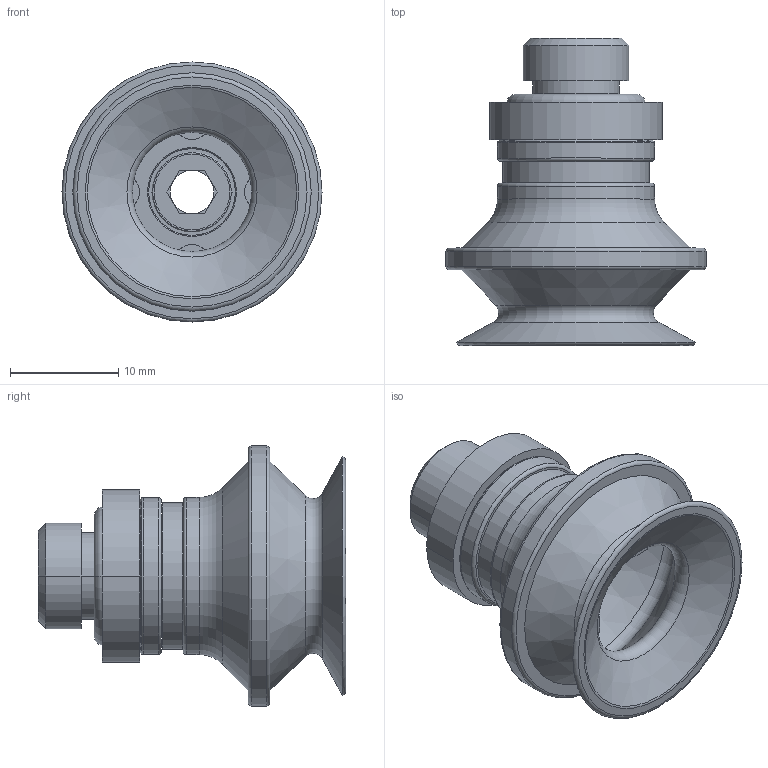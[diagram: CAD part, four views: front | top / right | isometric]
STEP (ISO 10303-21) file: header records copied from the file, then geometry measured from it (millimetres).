
FILE_DESCRIPTION (( 'STEP AP214' ), '1' );
FILE_NAME ('PSB20-G18M.STEP', '2025-09-25T14:25:20', ( '' ), ( '' ), 'SwSTEP 2.0', 'SolidWorks 2025', '' );
FILE_SCHEMA (( 'AUTOMOTIVE_DESIGN' ));
Length unit declared in the file: inch
Products named in the file (3): PSB20-G18M; 401.003; PSB20
Assembly tree (2 placements, depth 2):
  PSB20-G18M
    PSB20
    401.003
Bounding box: 24 x 28.36 x 24 mm (x, y, z)
Volume: 3076.8 mm3; surface area: 4609 mm2
Topology: 4 solids, 4 shells, 120 faces, 255 edges, 155 vertices
Faces by surface type: plane 48, cylinder 34, torus 22, cone 16
Full cylindrical faces by diameter (mm): 5 x1, 6 x1, 7 x1, 8.2 x1, 9.5 x1, 9.915 x1, 13.535 x1, 14.5 x2, 24 x1
Entity records: 3212 total; most frequent: CARTESIAN_POINT 575, DIRECTION 570, ORIENTED_EDGE 440, AXIS2_PLACEMENT_3D 245, EDGE_CURVE 220, EDGE_LOOP 174, VERTEX_POINT 154, FACE_OUTER_BOUND 146
